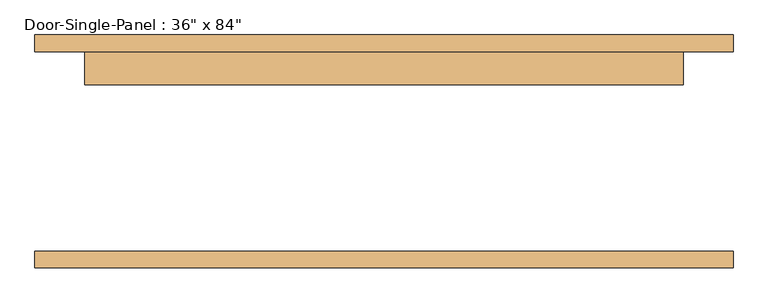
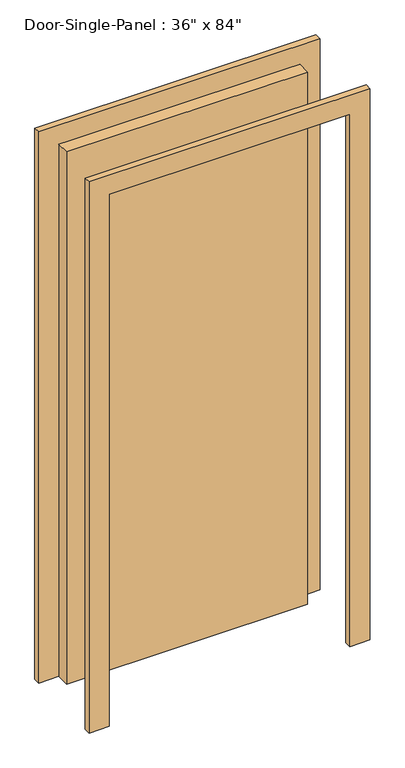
"""IFC4 building model written with IfcOpenShell, lengths in millimetres: door geometry."""

from ifc_helpers import new_model, si_unit, frame, origin, origin_with_axes, place, context, project, spatial, polyline, outline, extrude, source, transform, mapped, element, save


def door_180caff1(model_context):
    return source(origin(), model_context, "Body", "SweptSolid", [
        extrude(outline(polyline([(457.2, 101.6), (-457.2, 101.6), (-457.2, 152.4), (457.2, 152.4), (457.2, 101.6)])), origin_with_axes(), (0.0, 0.0, 1.0), 2133.6),
        extrude(outline(polyline([(2209.8, -533.4), (0.0, -533.4), (0.0, -457.2), (2133.6, -457.2), (2133.6, 457.2), (0.0, 457.2), (0.0, 533.4), (2209.8, 533.4), (2209.8, -533.4)])), frame((0.0, 152.4, 0.0), z_axis=(0.0, 1.0, 0.0), x_axis=(0.0, 0.0, 1.0)), (0.0, 0.0, 1.0), 25.4),
        extrude(outline(polyline([(2209.8, 533.4), (2209.8, -533.4), (0.0, -533.4), (0.0, -457.2), (2133.6, -457.2), (2133.6, 457.2), (0.0, 457.2), (0.0, 533.4), (2209.8, 533.4)])), frame((0.0, -177.8, 0.0), z_axis=(0.0, 1.0, 0.0), x_axis=(0.0, 0.0, 1.0)), (0.0, 0.0, 1.0), 25.4),
    ])


if __name__ == "__main__":
    model = new_model("IFC4")
    model_context = context("Model", 3, world=origin())
    ifc_project = project(units=[si_unit("LENGTHUNIT", "METRE", prefix="MILLI")], contexts=[model_context])
    site = spatial("IfcSite", under=ifc_project)
    building = spatial("IfcBuilding", under=site)
    placement = place(None, origin())
    door_shape = door_180caff1(model_context)
    element("IfcDoor", 1, ObjectType="Door-Single-Panel : 36\" x 84\"", at=placement, inside=building, context=model_context, shape_type="MappedRepresentation", body=[
        mapped(door_shape, transform((0.0, 0.0, 0.0), x_axis=(1.0, 0.0, 0.0), y_axis=(0.0, 1.0, 0.0), z_axis=(0.0, 0.0, 1.0))),
    ])
    save(model, "model.ifc")
